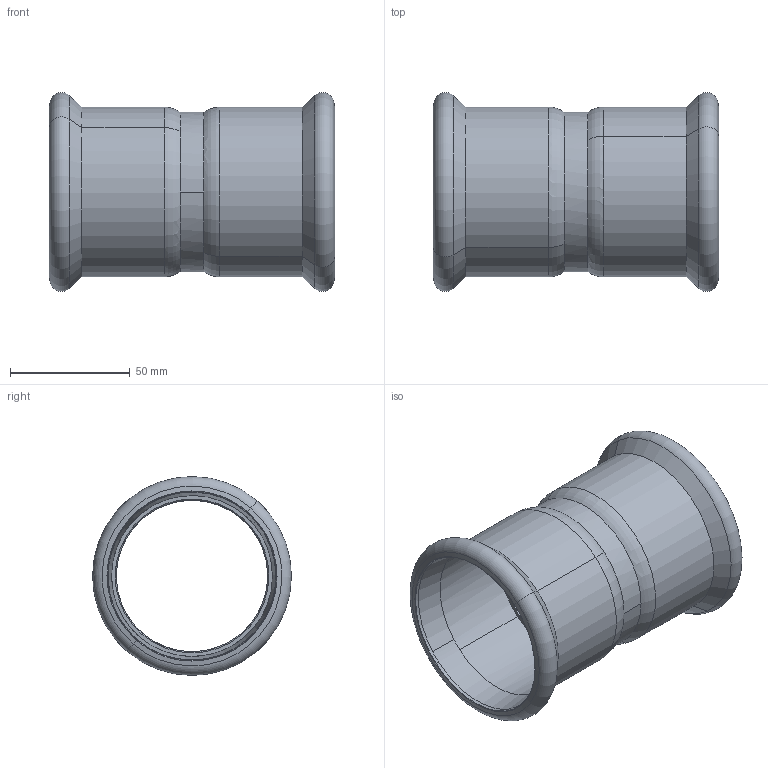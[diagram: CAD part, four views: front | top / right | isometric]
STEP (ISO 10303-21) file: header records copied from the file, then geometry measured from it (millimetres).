
FILE_DESCRIPTION(('CoCreate Modeling STEP Export'),'2;1');
FILE_NAME('C1401 67x67.stp','2014-10-23T14:33:06',(''),(''),'CoCreate Modeling STEP processor for AP214 (Solid Model)','CoCreate Modeling 17.00A 17-Jun-2010 (C) Parametric Technology GmbH','');
FILE_SCHEMA(('AUTOMOTIVE_DESIGN { 1 0 10303 214 1 1 1 1 }'));
Length unit declared in the file: millimetre
Products named in the file (1): Rechte-kopp_67mm
Bounding box: 119.08 x 82.91 x 82.91 mm (x, y, z)
Volume: 71452.2 mm3; surface area: 56682.7 mm2
Topology: 1 solids, 1 shells, 56 faces, 138 edges, 86 vertices
Faces by surface type: cylinder 20, cone 20, torus 12, plane 4
Entity records: 1312 total; most frequent: ORIENTED_EDGE 276, CARTESIAN_POINT 199, DIRECTION 186, EDGE_CURVE 138, VERTEX_POINT 86, AXIS2_PLACEMENT_3D 73, EDGE_LOOP 60, FACE_OUTER_BOUND 56
